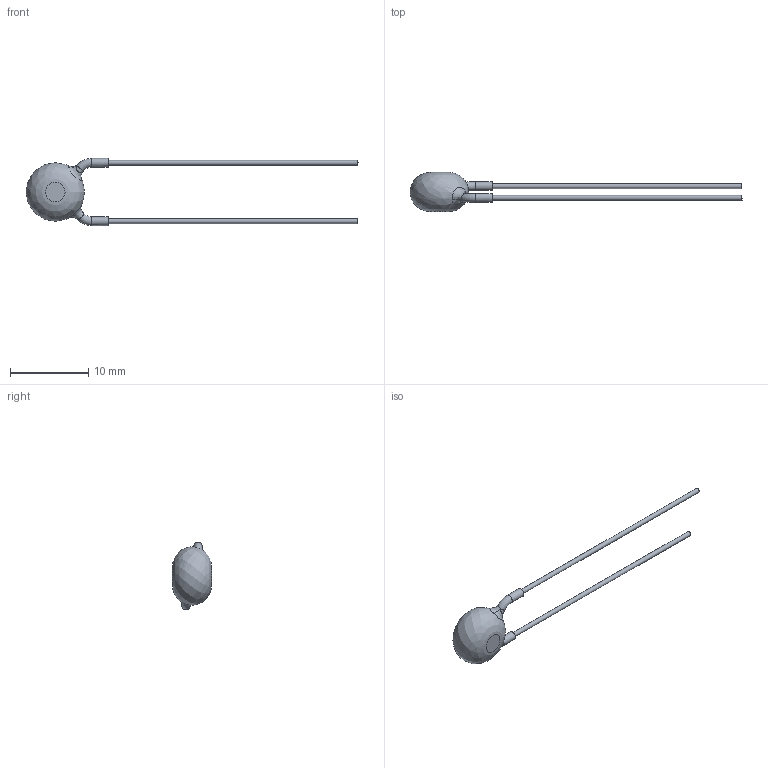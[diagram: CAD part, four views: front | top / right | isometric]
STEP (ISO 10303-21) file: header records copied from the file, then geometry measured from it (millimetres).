
FILE_DESCRIPTION((''),'2;1');
FILE_NAME('I:\Marketing\M6t1\3D-Models\Zchng-Werk-3\Upload for homepage\BCC\AY2\Y5U-7,5mm\AY2681K29Y5US63L7\AY2681K29Y5US63L7.stp','2015-09-09T08:36:56',(''),(''),'Autodesk Inventor 2013','Autodesk Inventor 2013','');
FILE_SCHEMA(('AUTOMOTIVE_DESIGN { 1 0 10303 214 1 1 1 1 }'));
Length unit declared in the file: centimetre
Products named in the file (1): AY2681K29Y5US63L7
Bounding box: 42.5 x 5 x 8.6 mm (x, y, z)
Volume: 194.7 mm3; surface area: 301.5 mm2
Topology: 1 solids, 1 shells, 19 faces, 37 edges, 24 vertices
Faces by surface type: cylinder 6, plane 6, bspline 5, torus 2
Full cylindrical faces by diameter (mm): 0.6 x2, 1.1 x2
Entity records: 773 total; most frequent: CARTESIAN_POINT 396, DIRECTION 62, ORIENTED_EDGE 52, AXIS2_PLACEMENT_3D 31, EDGE_LOOP 30, EDGE_CURVE 26, VERTEX_POINT 20, STYLED_ITEM 20
